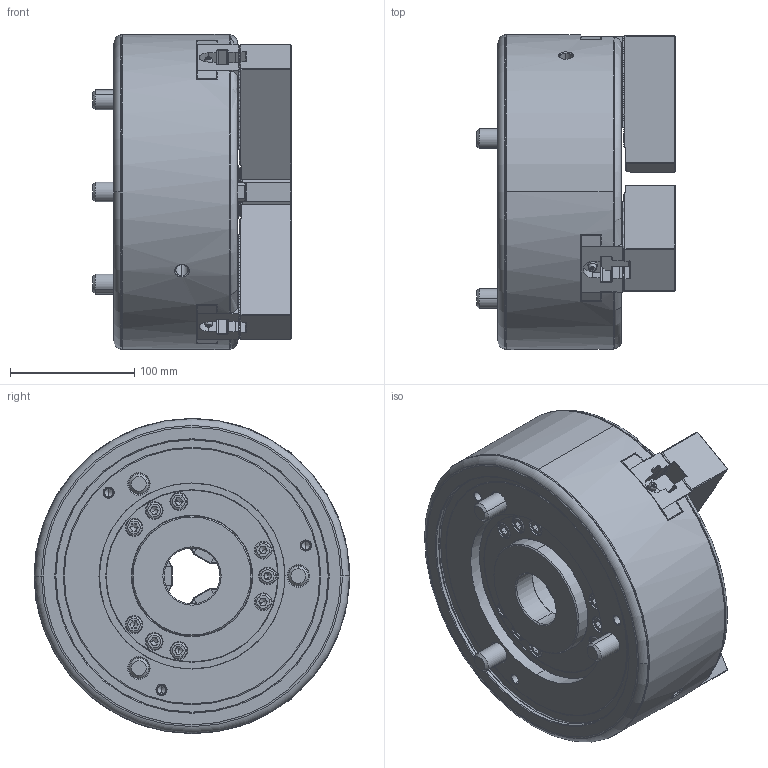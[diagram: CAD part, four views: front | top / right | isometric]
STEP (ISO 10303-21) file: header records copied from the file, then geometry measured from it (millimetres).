
FILE_DESCRIPTION (( 'STEP AP203' ), '1' );
FILE_NAME ('DEV-BR10-HCL.STEP', '2024-03-06T07:40:53', ( '' ), ( '' ), 'SwSTEP 2.0', 'SolidWorks 2022', '' );
FILE_SCHEMA (( 'CONFIG_CONTROL_DESIGN' ));
Length unit declared in the file: millimetre
Products named in the file (9): P31633-7 SB10B1 ソフトジョー_ﾃﾞﾌｫﾙﾄ(外観用); Bアナツキ M16×100; BR10-Nishi05 Plus-Tナット改1_61P417262-1 B-210 Tﾅｯﾄ-ﾃﾞﾌｫﾙﾄ; Bアナツキボタン M6×10_デフォルト; Part91^DEV-BR10-クミタテ; Bアナツキ M12×30; BR10-Nishi02 ドローナット_ﾃﾞﾌｫﾙﾄ(外観用); DEV-BR10-HCL; 61P367863-0 BB210 カバー
Assembly tree (21 placements, depth 2):
  DEV-BR10-HCL
    BR10-Nishi02 ドローナット_ﾃﾞﾌｫﾙﾄ(外観用)
    P31633-7 SB10B1 ソフトジョー_ﾃﾞﾌｫﾙﾄ(外観用)  x3
    BR10-Nishi05 Plus-Tナット改1_61P417262-1 B-210 Tﾅｯﾄ-ﾃﾞﾌｫﾙﾄ  x3
    61P367863-0 BB210 カバー
    Bアナツキ M12×30  x6
    Bアナツキボタン M6×10_デフォルト  x3
    Bアナツキ M16×100  x3
    Part91^DEV-BR10-クミタテ
Bounding box: 160.2 x 254 x 254 mm (x, y, z)
Volume: 4761141 mm3; surface area: 461891.5 mm2
Topology: 21 solids, 27 shells, 4074 faces, 11149 edges, 7198 vertices
Faces by surface type: plane 3074, cylinder 432, cone 346, bspline 120, torus 88, sphere 14
Entity records: 97940 total; most frequent: CARTESIAN_POINT 22617, ORIENTED_EDGE 15968, DIRECTION 14433, EDGE_CURVE 7984, VECTOR 6271, LINE 6271, VERTEX_POINT 5190, AXIS2_PLACEMENT_3D 4081
